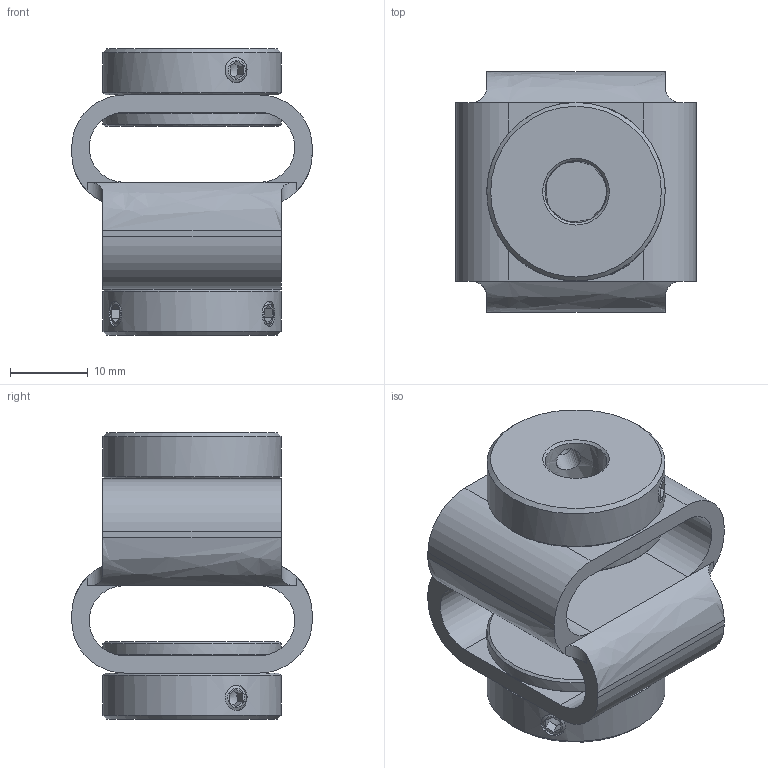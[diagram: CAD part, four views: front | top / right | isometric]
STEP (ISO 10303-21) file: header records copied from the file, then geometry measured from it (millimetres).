
FILE_DESCRIPTION((''),'2;1');
FILE_NAME('Z:\ABP-Antriebstechnik\Entwicklung-3D\Paguflex\Internet_Daten\DKPS 3835 08 08.stp','2011-10-21T13:34:09',('t006'),(''),'Autodesk Inventor 10','Autodesk Inventor 10','');
FILE_SCHEMA(('AUTOMOTIVE_DESIGN { 1 0 10303 214 1 1 1 1 }'));
Length unit declared in the file: millimetre
Products named in the file (1): DKPS 3835 08 08
Bounding box: 31 x 31 x 36.9 mm (x, y, z)
Volume: 11791.1 mm3; surface area: 8001.9 mm2
Topology: 1 solids, 3 shells, 146 faces, 356 edges, 216 vertices
Faces by surface type: plane 82, cone 30, cylinder 20, bspline 14
Full cylindrical faces by diameter (mm): 14 x2, 15 x2, 23 x4
Entity records: 4440 total; most frequent: CARTESIAN_POINT 1436, DIRECTION 618, ORIENTED_EDGE 556, EDGE_CURVE 278, AXIS2_PLACEMENT_3D 239, EDGE_LOOP 202, VERTEX_POINT 182, FACE_OUTER_BOUND 146
